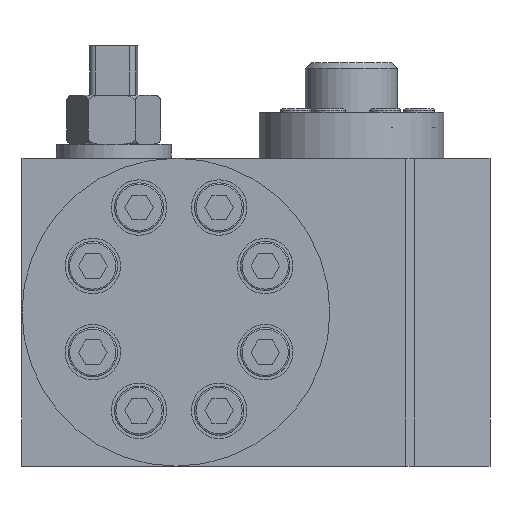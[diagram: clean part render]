
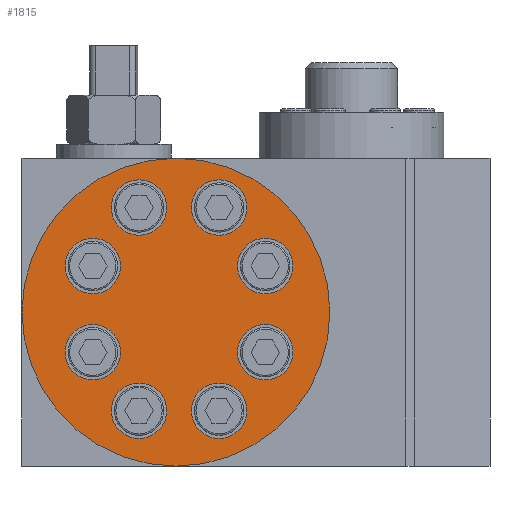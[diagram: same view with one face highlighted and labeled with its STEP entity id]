
A CAD part, left-side view. The second image highlights one B-rep face of the part: STEP entity #1815.
In plain terms, the highlighted planar face has unit normal (-1, 0, 0).
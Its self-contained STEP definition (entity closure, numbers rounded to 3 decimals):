
#561=PLANE('',#11620);
#1128=FACE_BOUND('',#3265,.T.);
#1129=FACE_BOUND('',#3266,.T.);
#1130=FACE_BOUND('',#3267,.T.);
#1131=FACE_BOUND('',#3268,.T.);
#1132=FACE_BOUND('',#3269,.T.);
#1133=FACE_BOUND('',#3270,.T.);
#1134=FACE_BOUND('',#3271,.T.);
#1135=FACE_BOUND('',#3272,.T.);
#1136=FACE_BOUND('',#3273,.T.);
#1815=ADVANCED_FACE('',(#1128,#1129,#1130,#1131,#1132,#1133,#1134,#1135,
#1136),#561,.F.);
#3265=EDGE_LOOP('',(#5697));
#3266=EDGE_LOOP('',(#5698));
#3267=EDGE_LOOP('',(#5699));
#3268=EDGE_LOOP('',(#5700));
#3269=EDGE_LOOP('',(#5701));
#3270=EDGE_LOOP('',(#5702));
#3271=EDGE_LOOP('',(#5703));
#3272=EDGE_LOOP('',(#5704));
#3273=EDGE_LOOP('',(#5705));
#4232=CIRCLE('',#11609,50.);
#4234=CIRCLE('',#11612,9.);
#4235=CIRCLE('',#11613,9.);
#4236=CIRCLE('',#11614,9.);
#4237=CIRCLE('',#11615,9.);
#4238=CIRCLE('',#11616,9.);
#4239=CIRCLE('',#11617,9.);
#4240=CIRCLE('',#11618,9.);
#4241=CIRCLE('',#11619,9.);
#5697=ORIENTED_EDGE('',*,*,#8793,.T.);
#5698=ORIENTED_EDGE('',*,*,#8794,.T.);
#5699=ORIENTED_EDGE('',*,*,#8795,.T.);
#5700=ORIENTED_EDGE('',*,*,#8796,.T.);
#5701=ORIENTED_EDGE('',*,*,#8797,.T.);
#5702=ORIENTED_EDGE('',*,*,#8798,.T.);
#5703=ORIENTED_EDGE('',*,*,#8799,.T.);
#5704=ORIENTED_EDGE('',*,*,#8800,.T.);
#5705=ORIENTED_EDGE('',*,*,#8791,.F.);
#7620=VERTEX_POINT('',#33806);
#7622=VERTEX_POINT('',#33811);
#7623=VERTEX_POINT('',#33813);
#7624=VERTEX_POINT('',#33815);
#7625=VERTEX_POINT('',#33817);
#7626=VERTEX_POINT('',#33819);
#7627=VERTEX_POINT('',#33821);
#7628=VERTEX_POINT('',#33823);
#7629=VERTEX_POINT('',#33825);
#8791=EDGE_CURVE('',#7620,#7620,#4232,.T.);
#8793=EDGE_CURVE('',#7622,#7622,#4234,.T.);
#8794=EDGE_CURVE('',#7623,#7623,#4235,.T.);
#8795=EDGE_CURVE('',#7624,#7624,#4236,.T.);
#8796=EDGE_CURVE('',#7625,#7625,#4237,.T.);
#8797=EDGE_CURVE('',#7626,#7626,#4238,.T.);
#8798=EDGE_CURVE('',#7627,#7627,#4239,.T.);
#8799=EDGE_CURVE('',#7628,#7628,#4240,.T.);
#8800=EDGE_CURVE('',#7629,#7629,#4241,.T.);
#11609=AXIS2_PLACEMENT_3D('',#33805,#13617,#13618);
#11612=AXIS2_PLACEMENT_3D('',#33810,#13623,#13624);
#11613=AXIS2_PLACEMENT_3D('',#33812,#13625,#13626);
#11614=AXIS2_PLACEMENT_3D('',#33814,#13627,#13628);
#11615=AXIS2_PLACEMENT_3D('',#33816,#13629,#13630);
#11616=AXIS2_PLACEMENT_3D('',#33818,#13631,#13632);
#11617=AXIS2_PLACEMENT_3D('',#33820,#13633,#13634);
#11618=AXIS2_PLACEMENT_3D('',#33822,#13635,#13636);
#11619=AXIS2_PLACEMENT_3D('',#33824,#13637,#13638);
#11620=AXIS2_PLACEMENT_3D('',#33826,#13639,#13640);
#13617=DIRECTION('',(1.,0.,0.));
#13618=DIRECTION('',(0.,1.,0.));
#13623=DIRECTION('',(1.,0.,0.));
#13624=DIRECTION('',(0.,-1.,0.));
#13625=DIRECTION('',(1.,0.,0.));
#13626=DIRECTION('',(0.,-1.,0.));
#13627=DIRECTION('',(1.,0.,0.));
#13628=DIRECTION('',(0.,-1.,0.));
#13629=DIRECTION('',(1.,0.,0.));
#13630=DIRECTION('',(0.,-1.,0.));
#13631=DIRECTION('',(1.,0.,0.));
#13632=DIRECTION('',(0.,-1.,0.));
#13633=DIRECTION('',(1.,0.,0.));
#13634=DIRECTION('',(0.,-1.,0.));
#13635=DIRECTION('',(1.,0.,0.));
#13636=DIRECTION('',(0.,-1.,0.));
#13637=DIRECTION('',(1.,0.,0.));
#13638=DIRECTION('',(0.,-1.,0.));
#13639=DIRECTION('',(1.,0.,0.));
#13640=DIRECTION('',(0.,0.,-1.));
#33805=CARTESIAN_POINT('',(-102.5,38.,50.));
#33806=CARTESIAN_POINT('',(-102.5,88.,50.));
#33810=CARTESIAN_POINT('',(-102.5,65.,37.));
#33811=CARTESIAN_POINT('',(-102.5,56.,37.));
#33812=CARTESIAN_POINT('',(-102.5,9.,37.));
#33813=CARTESIAN_POINT('',(-102.5,0.,37.));
#33814=CARTESIAN_POINT('',(-102.5,9.,65.));
#33815=CARTESIAN_POINT('',(-102.5,0.,65.));
#33816=CARTESIAN_POINT('',(-102.5,65.,65.));
#33817=CARTESIAN_POINT('',(-102.5,56.,65.));
#33818=CARTESIAN_POINT('',(-102.5,50.,18.));
#33819=CARTESIAN_POINT('',(-102.5,41.,18.));
#33820=CARTESIAN_POINT('',(-102.5,24.,18.));
#33821=CARTESIAN_POINT('',(-102.5,15.,18.));
#33822=CARTESIAN_POINT('',(-102.5,24.,84.));
#33823=CARTESIAN_POINT('',(-102.5,15.,84.));
#33824=CARTESIAN_POINT('',(-102.5,50.,84.));
#33825=CARTESIAN_POINT('',(-102.5,41.,84.));
#33826=CARTESIAN_POINT('',(-102.5,38.,50.));
